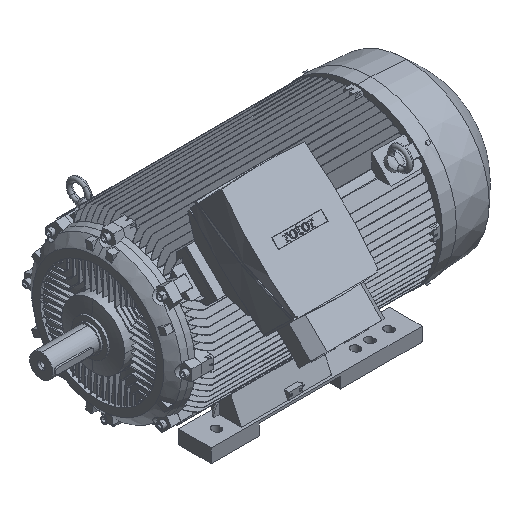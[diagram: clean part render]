
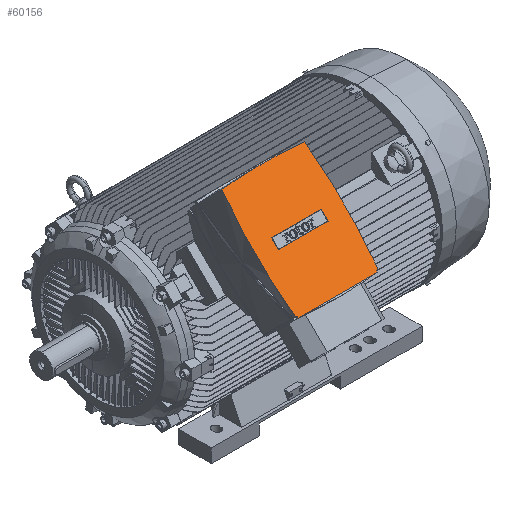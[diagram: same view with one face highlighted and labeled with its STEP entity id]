
A CAD part, isometric view. The second image highlights one B-rep face of the part: STEP entity #60156.
In plain terms, the highlighted planar face has unit normal (0, -0.707, 0.707).
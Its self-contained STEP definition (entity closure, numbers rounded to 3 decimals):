
#2864 = CARTESIAN_POINT ( 'NONE',  ( 100., -558.614, 240.416 ) ) ;
#4560 = VERTEX_POINT ( 'NONE', #68652 ) ;
#4801 = VECTOR ( 'NONE', #87955, 1000. ) ;
#6955 = LINE ( 'NONE', #11861, #4801 ) ;
#7086 = CARTESIAN_POINT ( 'NONE',  ( 155., -418.254, 380.777 ) ) ;
#7218 = CIRCLE ( 'NONE', #29365, 2020.86 ) ;
#7427 = CARTESIAN_POINT ( 'NONE',  ( 1808.3, -420.021, 379.009 ) ) ;
#8655 = VECTOR ( 'NONE', #45008, 1000. ) ;
#9134 = ORIENTED_EDGE ( 'NONE', *, *, #32034, .T. ) ;
#9616 = VERTEX_POINT ( 'NONE', #87943 ) ;
#9940 = CARTESIAN_POINT ( 'NONE',  ( 155., -407.647, 391.384 ) ) ;
#10384 = DIRECTION ( 'NONE',  ( 0., 0.707, 0.707 ) ) ;
#10578 = VERTEX_POINT ( 'NONE', #39731 ) ;
#10683 = DIRECTION ( 'NONE',  ( -1., 0., 0. ) ) ;
#11760 = CIRCLE ( 'NONE', #63278, 1724.8 ) ;
#11861 = CARTESIAN_POINT ( 'NONE',  ( 100., -555.079, 243.952 ) ) ;
#12234 = ORIENTED_EDGE ( 'NONE', *, *, #76789, .T. ) ;
#12447 = ORIENTED_EDGE ( 'NONE', *, *, #61540, .T. ) ;
#12611 = CARTESIAN_POINT ( 'NONE',  ( 396.02, -554.265, 244.766 ) ) ;
#14417 = DIRECTION ( 'NONE',  ( 0., 0.707, 0.707 ) ) ;
#17847 = VERTEX_POINT ( 'NONE', #60482 ) ;
#18048 = AXIS2_PLACEMENT_3D ( 'NONE', #7427, #55920, #14417 ) ;
#18502 = ORIENTED_EDGE ( 'NONE', *, *, #82756, .T. ) ;
#19802 = LINE ( 'NONE', #34025, #81681 ) ;
#19948 = DIRECTION ( 'NONE',  ( 0., -0.707, 0.707 ) ) ;
#21166 = ORIENTED_EDGE ( 'NONE', *, *, #31522, .T. ) ;
#22644 = CARTESIAN_POINT ( 'NONE',  ( 245., -416.486, 382.545 ) ) ;
#22650 = AXIS2_PLACEMENT_3D ( 'NONE', #22644, #71178, #29592 ) ;
#23301 = EDGE_LOOP ( 'NONE', ( #31336, #18502, #66819, #9134 ) ) ;
#23527 = VERTEX_POINT ( 'NONE', #2864 ) ;
#26519 = CARTESIAN_POINT ( 'NONE',  ( 245., -1710.746, -911.715 ) ) ;
#29365 = AXIS2_PLACEMENT_3D ( 'NONE', #34965, #83521, #41927 ) ;
#29592 = DIRECTION ( 'NONE',  ( 0., -0.707, -0.707 ) ) ;
#29930 = VERTEX_POINT ( 'NONE', #12611 ) ;
#30818 = VERTEX_POINT ( 'NONE', #70540 ) ;
#31095 = EDGE_CURVE ( 'NONE', #63729, #10578, #42524, .T. ) ;
#31336 = ORIENTED_EDGE ( 'NONE', *, *, #56581, .T. ) ;
#31522 = EDGE_CURVE ( 'NONE', #4560, #55986, #44951, .T. ) ;
#32034 = EDGE_CURVE ( 'NONE', #75700, #17847, #67512, .T. ) ;
#32157 = FACE_BOUND ( 'NONE', #23301, .T. ) ;
#32481 = VECTOR ( 'NONE', #69554, 1000. ) ;
#33491 = DIRECTION ( 'NONE',  ( 0., 0.707, 0.707 ) ) ;
#34025 = CARTESIAN_POINT ( 'NONE',  ( 245., -558.614, 240.416 ) ) ;
#34965 = CARTESIAN_POINT ( 'NONE',  ( 245., 870.703, 1669.734 ) ) ;
#35236 = ORIENTED_EDGE ( 'NONE', *, *, #41749, .T. ) ;
#36904 = EDGE_CURVE ( 'NONE', #23527, #4560, #19802, .T. ) ;
#36932 = CIRCLE ( 'NONE', #72213, 2020.86 ) ;
#37183 = VERTEX_POINT ( 'NONE', #9940 ) ;
#37967 = CARTESIAN_POINT ( 'NONE',  ( 390., -555.079, 243.952 ) ) ;
#38058 = CARTESIAN_POINT ( 'NONE',  ( 245., -407.647, 391.384 ) ) ;
#38307 = DIRECTION ( 'NONE',  ( 0., -0.707, 0.707 ) ) ;
#39323 = EDGE_CURVE ( 'NONE', #37183, #75700, #45528, .T. ) ;
#39731 = CARTESIAN_POINT ( 'NONE',  ( 93.98, -285.778, 513.253 ) ) ;
#41002 = DIRECTION ( 'NONE',  ( 0., -0.707, 0.707 ) ) ;
#41130 = EDGE_CURVE ( 'NONE', #55986, #29930, #7218, .T. ) ;
#41749 = EDGE_CURVE ( 'NONE', #47774, #23527, #6955, .T. ) ;
#41927 = DIRECTION ( 'NONE',  ( 0., 0.707, 0.707 ) ) ;
#42524 = CIRCLE ( 'NONE', #61468, 2020.86 ) ;
#43987 = CARTESIAN_POINT ( 'NONE',  ( 100., -554.578, 244.453 ) ) ;
#44951 = LINE ( 'NONE', #37967, #63372 ) ;
#45008 = DIRECTION ( 'NONE',  ( 1., 0., 0. ) ) ;
#45528 = LINE ( 'NONE', #38058, #8655 ) ;
#46939 = CARTESIAN_POINT ( 'NONE',  ( 245., -281.782, 517.249 ) ) ;
#47507 = DIRECTION ( 'NONE',  ( 0., -0.707, -0.707 ) ) ;
#47774 = VERTEX_POINT ( 'NONE', #43987 ) ;
#48198 = CARTESIAN_POINT ( 'NONE',  ( 396.02, -285.778, 513.253 ) ) ;
#48610 = VECTOR ( 'NONE', #10683, 1000. ) ;
#49023 = VECTOR ( 'NONE', #47507, 1000. ) ;
#49071 = CIRCLE ( 'NONE', #73046, 2020.86 ) ;
#50855 = EDGE_LOOP ( 'NONE', ( #52576, #76354, #12447, #82443, #82284, #12234, #35236, #73512, #21166 ) ) ;
#50890 = LINE ( 'NONE', #7086, #32481 ) ;
#52576 = ORIENTED_EDGE ( 'NONE', *, *, #41130, .T. ) ;
#54946 = DIRECTION ( 'NONE',  ( 1., 0., 0. ) ) ;
#55920 = DIRECTION ( 'NONE',  ( 0., -0.707, 0.707 ) ) ;
#55986 = VERTEX_POINT ( 'NONE', #57439 ) ;
#56581 = EDGE_CURVE ( 'NONE', #17847, #30818, #85558, .T. ) ;
#57439 = CARTESIAN_POINT ( 'NONE',  ( 390., -554.578, 244.453 ) ) ;
#59136 = CARTESIAN_POINT ( 'NONE',  ( 245., -432.396, 366.635 ) ) ;
#60156 = ADVANCED_FACE ( 'NONE', ( #69050, #32157 ), #77855, .T. ) ;
#60482 = CARTESIAN_POINT ( 'NONE',  ( 335., -432.396, 366.635 ) ) ;
#61468 = AXIS2_PLACEMENT_3D ( 'NONE', #26519, #75062, #33491 ) ;
#61476 = CARTESIAN_POINT ( 'NONE',  ( 245., -1710.746, -911.715 ) ) ;
#61540 = EDGE_CURVE ( 'NONE', #85456, #63729, #36932, .T. ) ;
#63278 = AXIS2_PLACEMENT_3D ( 'NONE', #82580, #41002, #89591 ) ;
#63372 = VECTOR ( 'NONE', #10384, 1000. ) ;
#63729 = VERTEX_POINT ( 'NONE', #46939 ) ;
#66819 = ORIENTED_EDGE ( 'NONE', *, *, #39323, .T. ) ;
#67512 = LINE ( 'NONE', #75182, #49023 ) ;
#68450 = DIRECTION ( 'NONE',  ( 0., 0.707, 0.707 ) ) ;
#68652 = CARTESIAN_POINT ( 'NONE',  ( 390., -558.614, 240.416 ) ) ;
#69050 = FACE_OUTER_BOUND ( 'NONE', #50855, .T. ) ;
#69554 = DIRECTION ( 'NONE',  ( 0., 0.707, 0.707 ) ) ;
#70540 = CARTESIAN_POINT ( 'NONE',  ( 155., -432.396, 366.635 ) ) ;
#71054 = CARTESIAN_POINT ( 'NONE',  ( 335., -407.647, 391.384 ) ) ;
#71178 = DIRECTION ( 'NONE',  ( 0., -0.707, 0.707 ) ) ;
#72213 = AXIS2_PLACEMENT_3D ( 'NONE', #61476, #19948, #68450 ) ;
#73046 = AXIS2_PLACEMENT_3D ( 'NONE', #79873, #38307, #86868 ) ;
#73512 = ORIENTED_EDGE ( 'NONE', *, *, #36904, .T. ) ;
#75062 = DIRECTION ( 'NONE',  ( 0., -0.707, 0.707 ) ) ;
#75182 = CARTESIAN_POINT ( 'NONE',  ( 335., -418.254, 380.777 ) ) ;
#75700 = VERTEX_POINT ( 'NONE', #71054 ) ;
#76354 = ORIENTED_EDGE ( 'NONE', *, *, #89643, .T. ) ;
#76789 = EDGE_CURVE ( 'NONE', #9616, #47774, #49071, .T. ) ;
#77855 = PLANE ( 'NONE',  #22650 ) ;
#79873 = CARTESIAN_POINT ( 'NONE',  ( 245., 870.703, 1669.734 ) ) ;
#81681 = VECTOR ( 'NONE', #54946, 1000. ) ;
#82284 = ORIENTED_EDGE ( 'NONE', *, *, #84582, .T. ) ;
#82443 = ORIENTED_EDGE ( 'NONE', *, *, #31095, .T. ) ;
#82473 = CIRCLE ( 'NONE', #18048, 1724.8 ) ;
#82580 = CARTESIAN_POINT ( 'NONE',  ( -1318.3, -420.021, 379.009 ) ) ;
#82756 = EDGE_CURVE ( 'NONE', #30818, #37183, #50890, .T. ) ;
#83521 = DIRECTION ( 'NONE',  ( 0., -0.707, 0.707 ) ) ;
#84582 = EDGE_CURVE ( 'NONE', #10578, #9616, #82473, .T. ) ;
#85456 = VERTEX_POINT ( 'NONE', #48198 ) ;
#85558 = LINE ( 'NONE', #59136, #48610 ) ;
#86868 = DIRECTION ( 'NONE',  ( 0., 0.707, 0.707 ) ) ;
#87943 = CARTESIAN_POINT ( 'NONE',  ( 93.98, -554.265, 244.766 ) ) ;
#87955 = DIRECTION ( 'NONE',  ( 0., -0.707, -0.707 ) ) ;
#89591 = DIRECTION ( 'NONE',  ( 0., 0.707, 0.707 ) ) ;
#89643 = EDGE_CURVE ( 'NONE', #29930, #85456, #11760, .T. ) ;
